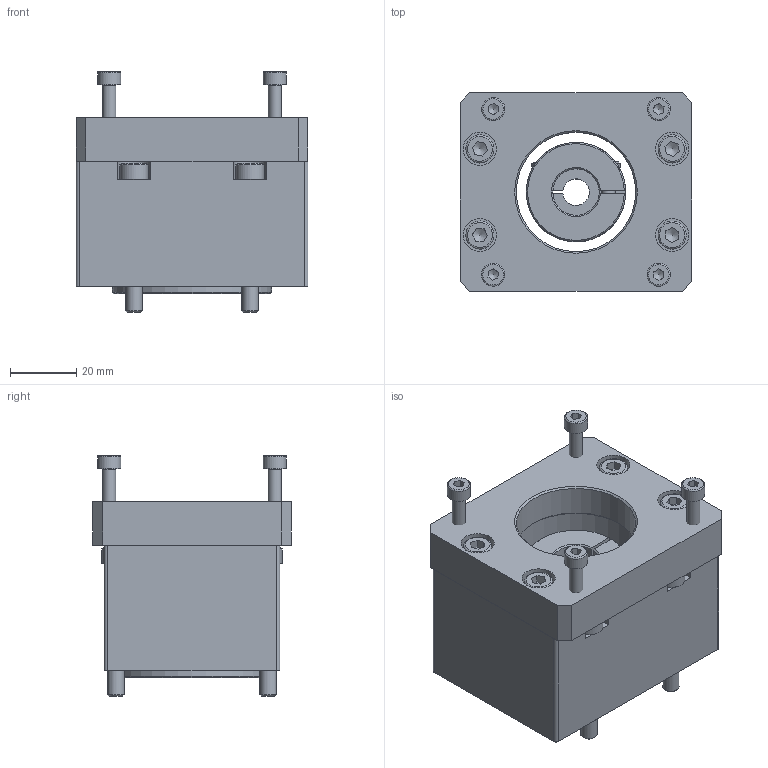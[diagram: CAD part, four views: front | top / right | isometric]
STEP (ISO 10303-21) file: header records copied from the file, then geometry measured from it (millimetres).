
FILE_DESCRIPTION(/* description */ ('EAMK-A O-Coupling housing'),/* implementation_level */ '2;1');
FILE_NAME(/* name */ 'C:\STORE\ホームページ用データ\\X2\30E230FC30BF53D64ED830AD30C330C8\X0\_2016_2016.10.06_\X2\30AB30BF30ED30B065398A025206\X0\\3D_STEP\J09813.stp',/* time_stamp */ '2016-10-19T14:07:05+09:00',/* author */ ('jp0tot'),/* organization */ ('FESTO'),/* preprocessor_version */ 'ST-DEVELOPER v15.6',/* originating_system */ 'Autodesk Inventor 2015',/* authorisation */ '');
FILE_SCHEMA (('AUTOMOTIVE_DESIGN { 1 0 10303 214 3 1 1 }'));
Length unit declared in the file: millimetre
Products named in the file (8): 3637941 EAMK-A-S48-48A_B-G2---(1O); DIN-912 - M5x40(F); 3637941 EAMK-A-S48-48A_B-G2; 562682_EAMC_30_32_8_14; J07926; コピー版 JIS B 1176 - M5 x 15; コピー版 JIS B 1176 - M4 x 18; J09813
Bounding box: 70 x 60 x 72.7 mm (x, y, z)
Volume: 136500.7 mm3; surface area: 51736.3 mm2
Topology: 15 solids, 15 shells, 464 faces, 1101 edges, 695 vertices
Faces by surface type: plane 242, cylinder 119, cone 85, torus 18
Full cylindrical faces by diameter (mm): 2 x12, 3.242 x6, 4 x6, 4.134 x4, 5 x8, 5.5 x8, 7 x4, 8.5 x8, 10 x4, 14.2 x1, 36 x1, 45 x1, 48 x2
Entity records: 8711 total; most frequent: CARTESIAN_POINT 1694, DIRECTION 1498, ORIENTED_EDGE 1270, EDGE_CURVE 635, AXIS2_PLACEMENT_3D 593, VERTEX_POINT 457, EDGE_LOOP 432, LINE 312
